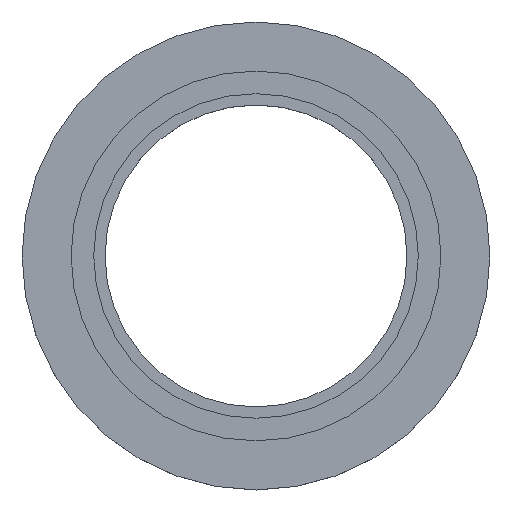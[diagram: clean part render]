
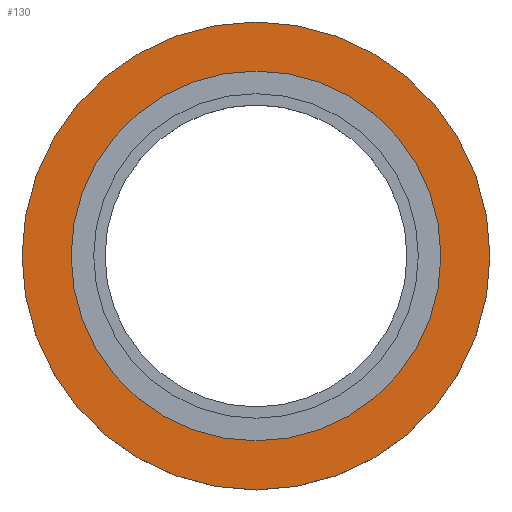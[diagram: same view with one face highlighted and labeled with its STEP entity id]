
A CAD part, top view. The second image highlights one B-rep face of the part: STEP entity #130.
In plain terms, the highlighted planar face has unit normal (0, 0, 1).
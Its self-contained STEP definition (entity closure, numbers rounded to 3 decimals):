
#28=FACE_BOUND('',#44,.T.);
#34=FACE_OUTER_BOUND('',#43,.T.);
#43=EDGE_LOOP('',(#104,#105));
#44=EDGE_LOOP('',(#106));
#54=CIRCLE('',#160,24.5);
#55=CIRCLE('',#162,31.);
#56=CIRCLE('',#163,31.);
#66=VERTEX_POINT('',#230);
#67=VERTEX_POINT('',#234);
#68=VERTEX_POINT('',#235);
#78=EDGE_CURVE('',#66,#66,#54,.T.);
#80=EDGE_CURVE('',#67,#68,#55,.T.);
#81=EDGE_CURVE('',#68,#67,#56,.T.);
#104=ORIENTED_EDGE('',*,*,#80,.T.);
#105=ORIENTED_EDGE('',*,*,#81,.T.);
#106=ORIENTED_EDGE('',*,*,#78,.T.);
#124=PLANE('',#166);
#130=ADVANCED_FACE('',(#34,#28),#124,.T.);
#160=AXIS2_PLACEMENT_3D('',#231,#187,#188);
#162=AXIS2_PLACEMENT_3D('',#236,#192,#193);
#163=AXIS2_PLACEMENT_3D('',#237,#194,#195);
#166=AXIS2_PLACEMENT_3D('',#243,#201,#202);
#187=DIRECTION('center_axis',(0.,0.,-1.));
#188=DIRECTION('ref_axis',(-1.,0.,0.));
#192=DIRECTION('center_axis',(0.,0.,1.));
#193=DIRECTION('ref_axis',(1.,0.,0.));
#194=DIRECTION('center_axis',(0.,0.,1.));
#195=DIRECTION('ref_axis',(1.,0.,0.));
#201=DIRECTION('center_axis',(0.,0.,1.));
#202=DIRECTION('ref_axis',(1.,0.,0.));
#230=CARTESIAN_POINT('',(24.5,0.,2.5));
#231=CARTESIAN_POINT('Origin',(0.,0.,2.5));
#234=CARTESIAN_POINT('',(31.,0.,2.5));
#235=CARTESIAN_POINT('',(-31.,0.,2.5));
#236=CARTESIAN_POINT('Origin',(0.,0.,2.5));
#237=CARTESIAN_POINT('Origin',(0.,0.,2.5));
#243=CARTESIAN_POINT('Origin',(0.,0.,2.5));
